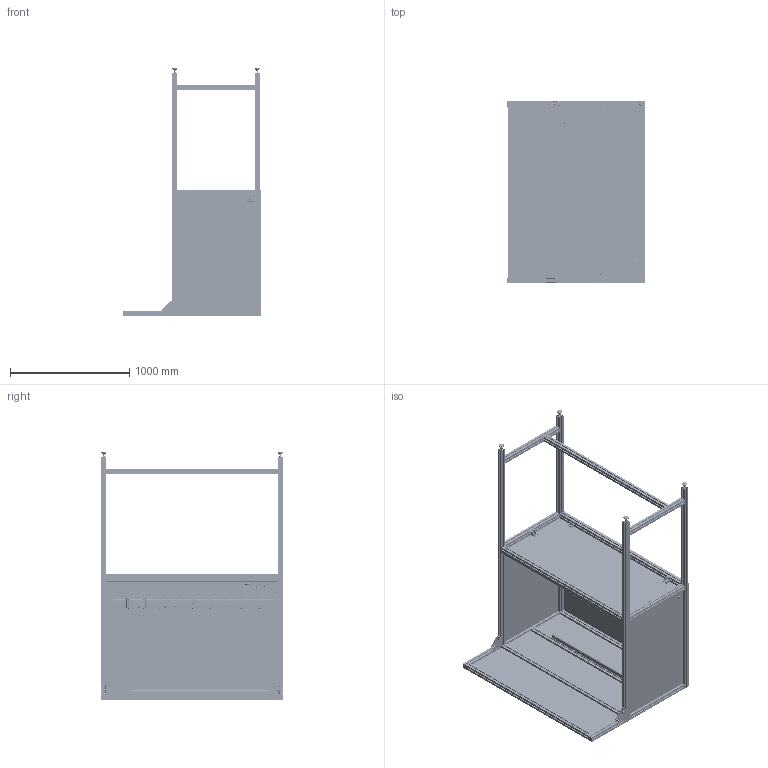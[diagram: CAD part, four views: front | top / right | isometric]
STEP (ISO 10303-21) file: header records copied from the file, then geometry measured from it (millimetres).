
FILE_DESCRIPTION(/* description */ (''),/* implementation_level */ '2;1');
FILE_NAME(/* name */ 'C:\MY DOCUMENTS\WEBSITE\DREAMWEAVER\MiniTec\application_pages\workstations\Stand Up Workstation With Parts Bind Rail\MH081722-1-RPO- WORKBENCH.stp',/* time_stamp */ '2022-10-10T15:57:06-04:00',/* author */ ('amoles'),/* organization */ (''),/* preprocessor_version */ 'ST-DEVELOPER v18.1',/* originating_system */ 'Autodesk Inventor 2022',/* authorisation */ '');
FILE_SCHEMA (('AUTOMOTIVE_DESIGN { 1 0 10303 214 3 1 1 }'));
Products named in the file (43): MH081722-1-RPO- WORKBENCH; 20.1033 45X45 66; 21.1871 LEVELING FOOT M8 45mm BASE; ANTI-SKID 45mm PAD; PAD 45mm PLASTIC; THREADED STUD 8mm; 21.1526 M8 HEX NUT; 20.1033 45X45 DEPTH; SM051922-1-101; 21.1349 ANGLE 45 GD-Z; POWER STRIP NEMA 5-15R PLUGS (3); 4946A634_Expandable Locking Grommets; 20.1067 45X90 UL_56.46; MH081722-1-11; MH081722-1-01; 21.9551 BLACK .25 HDPE SIDE PANEL; MH081722-1-12; 20.1033 45X45- 16.00; top; 33.9620_48 LED STRIP LIGHT 4FT; 33.9620_48 LED STRIP LIGHT 4FT_1; 33.9620 RECEPTACLE COVER; 33.9620 PLASTIC MOUNTING CLIP IN LINE; 33.9620 M3.9 MOUNTING SCREW; 33.9620 PLASTIC MOUNTING CLIP OFFSET; 32.0870/1 ; 32.0870_1 KANTAINER ORANGE; 00104938; 32.0870_1 KANTAINER FOLD OUT TRAY; 32.0870_1 KANTAINER LID; 20.1033 45X45 WIDTH; 22.1004 END CAP 45X45 BLACK; END CAP DOWEL BLACK; 22.1004 END CAP 45X45 BLACK_1; 21.1397 ; 00020270; 21.1127 ; 21.1280 ; MH081722-1-10; 21.0969 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
Assembly tree (93 placements, depth 3):
  MH081722-1-RPO- WORKBENCH
    20.1033 45X45 66  x4
    21.1871 LEVELING FOOT M8 45mm BASE  x4
      ANTI-SKID 45mm PAD
      PAD 45mm PLASTIC
      THREADED STUD 8mm
      21.1526 M8 HEX NUT
    20.1033 45X45 DEPTH  x6
    SM051922-1-101
    22.1004 END CAP 45X45 BLACK  x6
      END CAP DOWEL BLACK
      22.1004 END CAP 45X45 BLACK_1
    21.1349 ANGLE 45 GD-Z  x6
    POWER STRIP NEMA 5-15R PLUGS (3)
    4946A634_Expandable Locking Grommets
    20.1067 45X90 UL_56.46
    MH081722-1-11
    MH081722-1-01
    21.9551 BLACK .25 HDPE SIDE PANEL
    MH081722-1-12
    20.1033 45X45- 16.00  x2
    top
    33.9620_48 LED STRIP LIGHT 4FT
      33.9620_48 LED STRIP LIGHT 4FT_1
      33.9620 PLASTIC MOUNTING CLIP IN LINE  x3
      33.9620 PLASTIC MOUNTING CLIP OFFSET  x3
      33.9620 RECEPTACLE COVER
      33.9620 M3.9 MOUNTING SCREW  x3
    32.0870/1   x10
      32.0870_1 KANTAINER ORANGE
      00104938
      32.0870_1 KANTAINER FOLD OUT TRAY
      32.0870_1 KANTAINER LID
    21.1397   x2
      00020270
      21.1127 
      21.1280 
      21.1351 
    21.0969   x4
      21.0969/2 
      21.1202
      21.1351 
  20.1033 45X45 WIDTH
  MH081722-1-10
Bounding box: 1152.43 x 1524.08 x 2085.8 mm (x, y, z)
Volume: 72722352.2 mm3; surface area: 28831983.6 mm2
Topology: 165 solids, 165 shells, 26565 faces, 66820 edges, 40133 vertices
Faces by surface type: plane 10130, cylinder 9352, bspline 2784, torus 2511, sphere 1528, cone 260
Full cylindrical faces by diameter (mm): 1.5 x4, 2.575 x30, 3 x20, 3.44 x30, 4.6 x3, 5 x12, 5.5 x13, 6.604 x12, 6.647 x4, 7 x1, 8 x36, 8.4 x8, 8.5 x8, 9.1 x1, 10 x6, 10.5 x5, 11.684 x6, 12 x4, 13 x16, 14 x20, 15 x8, 16 x8, 20 x20, 20.2 x20, 36.576 x1, 37 x8, 37.846 x1, 38.1 x1, 45 x4
Entity records: 136947 total; most frequent: CARTESIAN_POINT 34402, DIRECTION 20797, ORIENTED_EDGE 20446, EDGE_CURVE 10223, AXIS2_PLACEMENT_3D 7242, VERTEX_POINT 6387, LINE 6313, VECTOR 6313
